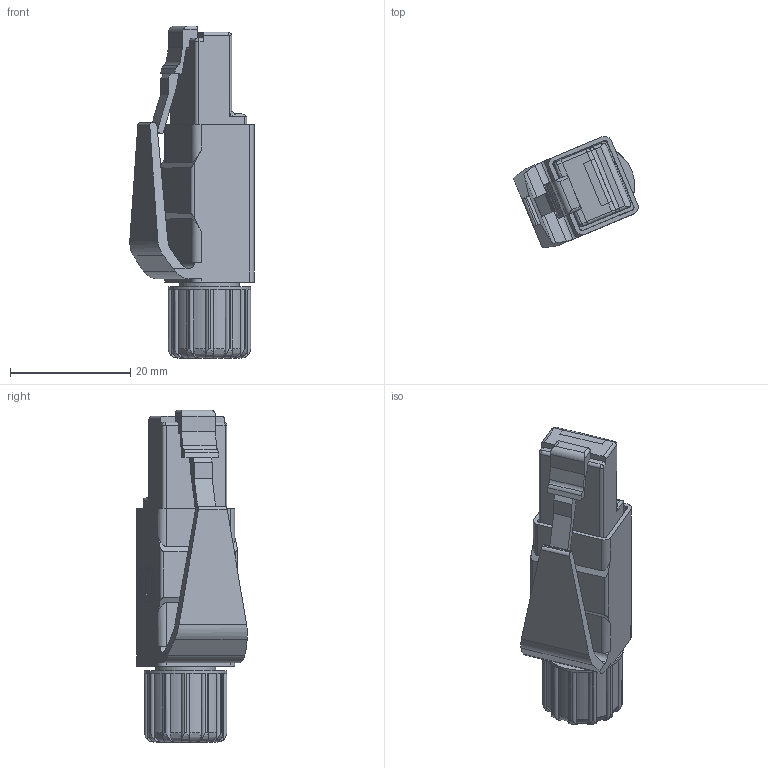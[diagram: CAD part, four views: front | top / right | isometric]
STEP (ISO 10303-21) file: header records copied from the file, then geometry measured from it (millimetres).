
FILE_DESCRIPTION(/* description */ (''),/* implementation_level */ '2;1');
FILE_NAME(/* name */ '100534547ugm000_a.stp',/* time_stamp */ '2013-04-03T11:27:32+02:00',/* author */ (''),/* organization */ (''),/* preprocessor_version */ 'ST-DEVELOPER v11',/* originating_system */ 'SIEMENS PLM Software NX 7.5',/* authorisation */ '');
FILE_SCHEMA (('AUTOMOTIVE_DESIGN { 1 0 10303 214 1 1 1 1 }'));
Length unit declared in the file: millimetre
Products named in the file (1): 100534547ugm000_a
Bounding box: 20.72 x 18.48 x 55.29 mm (x, y, z)
Volume: 6651.5 mm3; surface area: 6493.3 mm2
Topology: 4 solids, 4 shells, 336 faces, 933 edges, 656 vertices
Faces by surface type: plane 212, cylinder 99, bspline 18, cone 5, sphere 2
Full cylindrical faces by diameter (mm): 0.57 x1, 0.63 x1, 5 x1, 6.9 x1, 8.64 x1, 10 x1, 13.7 x1
Entity records: 12070 total; most frequent: CARTESIAN_POINT 2809, ORIENTED_EDGE 1788, DIRECTION 1647, EDGE_CURVE 894, LINE 595, VECTOR 595, VERTEX_POINT 594, AXIS2_PLACEMENT_3D 526
